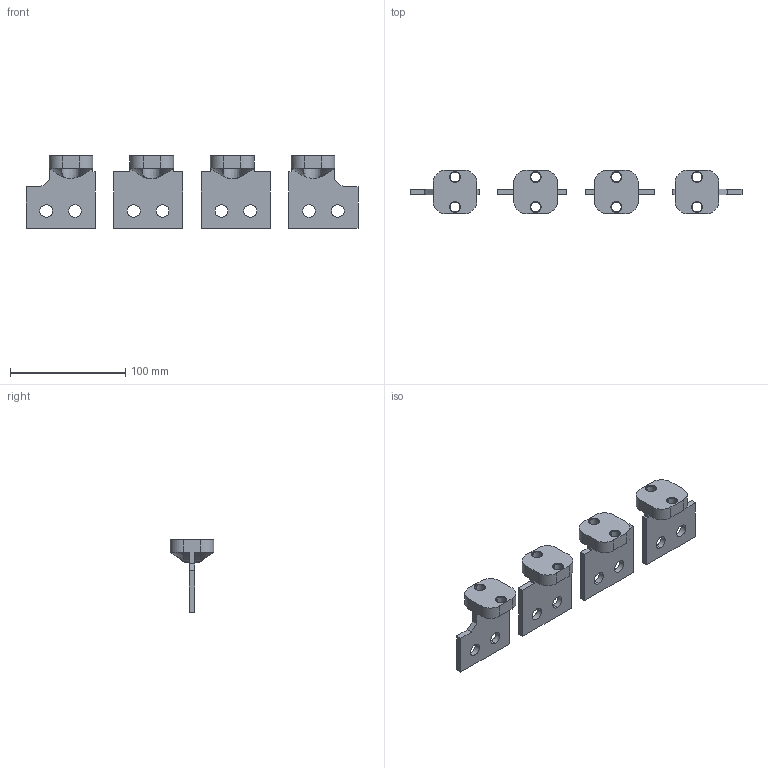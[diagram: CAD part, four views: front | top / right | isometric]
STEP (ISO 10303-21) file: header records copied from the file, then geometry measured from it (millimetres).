
FILE_DESCRIPTION (( 'STEP AP203' ), '1' );
FILE_NAME ('Âûâîäû ãîðèç. âåðõíèå äëÿ âûêàòíîãî íà 630À 4P.STEP', '2024-06-25T10:12:52', ( '' ), ( '' ), 'SwSTEP 2.0', 'SolidWorks 2018', '' );
FILE_SCHEMA (( 'CONFIG_CONTROL_DESIGN' ));
Length unit declared in the file: millimetre
Products named in the file (1): Âûâîäû ãîðèç. âåðõíèå äëÿ âûêàòíîãî íà 630À 4P
Bounding box: 288 x 38 x 63 mm (x, y, z)
Volume: 119326.9 mm3; surface area: 44527.1 mm2
Topology: 4 solids, 4 shells, 258 faces, 676 edges, 426 vertices
Faces by surface type: plane 96, bspline 82, cylinder 56, cone 24
Entity records: 21729 total; most frequent: CARTESIAN_POINT 15859, ORIENTED_EDGE 1352, DIRECTION 978, EDGE_CURVE 676, VERTEX_POINT 426, AXIS2_PLACEMENT_3D 351, EDGE_LOOP 290, LINE 276
